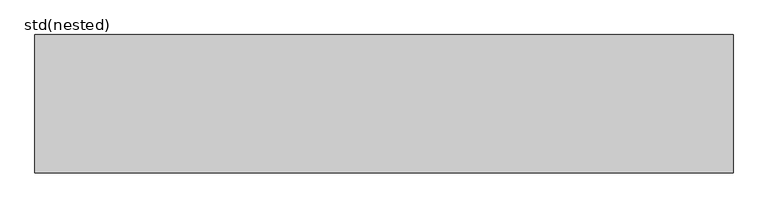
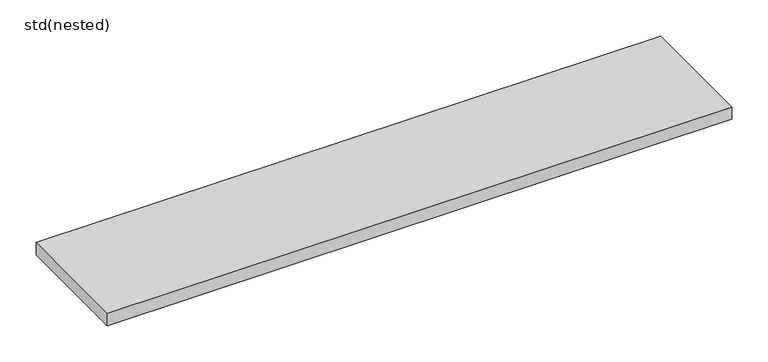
"""IFC4 building model written with IfcOpenShell, lengths in millimetres: sanitary terminal geometry, ZZZ_do not use_PF_SS_WPB_ Mesh grating 1000x198_ACO : std(nested)."""

from ifc_helpers import new_model, si_unit, origin, origin_with_axes, place, context, project, spatial, polyline, outline, extrude, source, transform, mapped, element, save


def std_nested_6c419a35(model_context):
    return source(origin(), model_context, "Body", "SweptSolid", [
        extrude(outline(polyline([(499.75, 99.0), (499.75, -99.0), (-499.75, -99.0), (-499.75, 99.0), (499.75, 99.0)])), origin_with_axes(), (0.0, 0.0, 1.0), 21.0),
    ])


if __name__ == "__main__":
    model = new_model("IFC4")
    model_context = context("Model", 3, world=origin())
    ifc_project = project(units=[si_unit("LENGTHUNIT", "METRE", prefix="MILLI")], contexts=[model_context])
    site = spatial("IfcSite", under=ifc_project)
    building = spatial("IfcBuilding", under=site)
    placement = place(None, origin())
    std_nested_shape = std_nested_6c419a35(model_context)
    element("IfcSanitaryTerminal", 1, ObjectType="ZZZ_do not use_PF_SS_WPB_ Mesh grating 1000x198_ACO : std(nested)", at=placement, inside=building, context=model_context, shape_type="MappedRepresentation", body=[
        mapped(std_nested_shape, transform((0.0, 0.0, 0.0), x_axis=(1.0, 0.0, 0.0), y_axis=(0.0, 1.0, 0.0), z_axis=(0.0, 0.0, 1.0))),
    ])
    save(model, "model.ifc")
